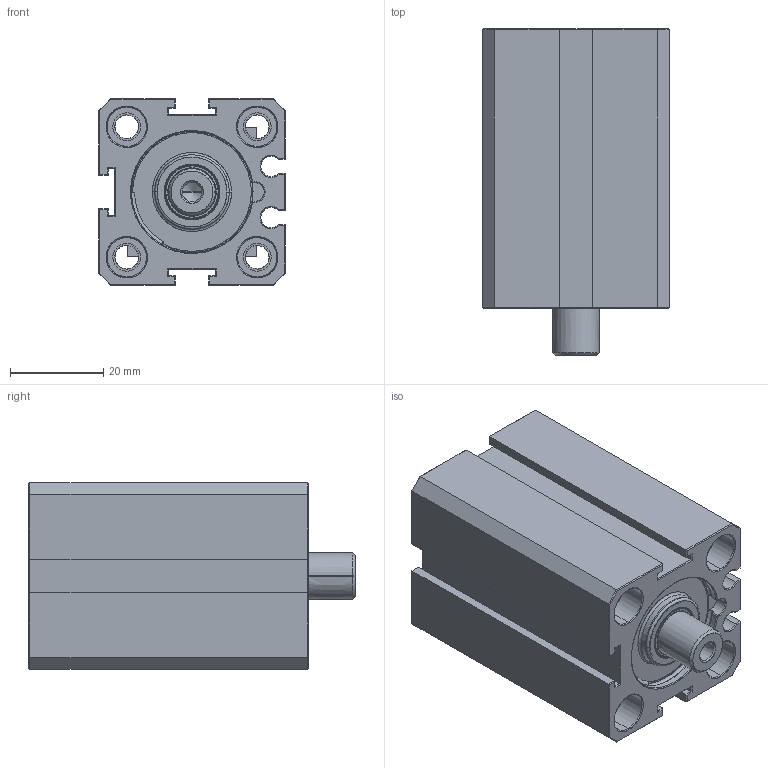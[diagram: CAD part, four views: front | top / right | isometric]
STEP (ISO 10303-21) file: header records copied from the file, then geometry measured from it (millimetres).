
FILE_DESCRIPTION((''),'2;1');
FILE_NAME('3D-NDFOCL25X5','2014-01-18T',('yfs-01'),('foxconn'),'PRO/ENGINEER BY PARAMETRIC TECHNOLOGY CORPORATION, 2007230','PRO/ENGINEER BY PARAMETRIC TECHNOLOGY CORPORATION, 2007230','');
FILE_SCHEMA(('CONFIG_CONTROL_DESIGN'));
Length unit declared in the file: millimetre
Products named in the file (1): 3D-NDFOCL25X5
Bounding box: 40 x 70 x 40 mm (x, y, z)
Surface area: 26138.3 mm2 (no closed solid volume)
Topology: 0 solids, 0 shells, 350 faces, 1597 edges, 1584 vertices
Faces by surface type: bspline 334, torus 16
Entity records: 40817 total; most frequent: CARTESIAN_POINT 23542, DIRECTION 2916, TRIMMED_CURVE 2493, VECTOR 2102, LINE 2102, DEFINITIONAL_REPRESENTATION 1573, PCURVE 1573, COMPOSITE_CURVE_SEGMENT 1573
